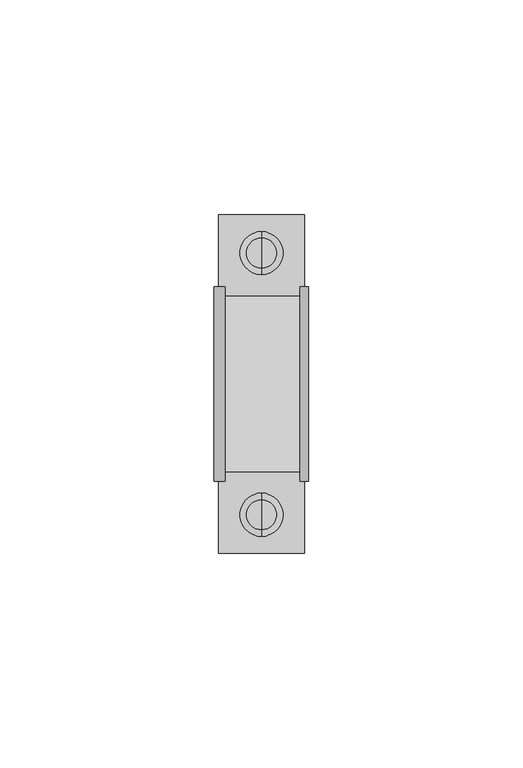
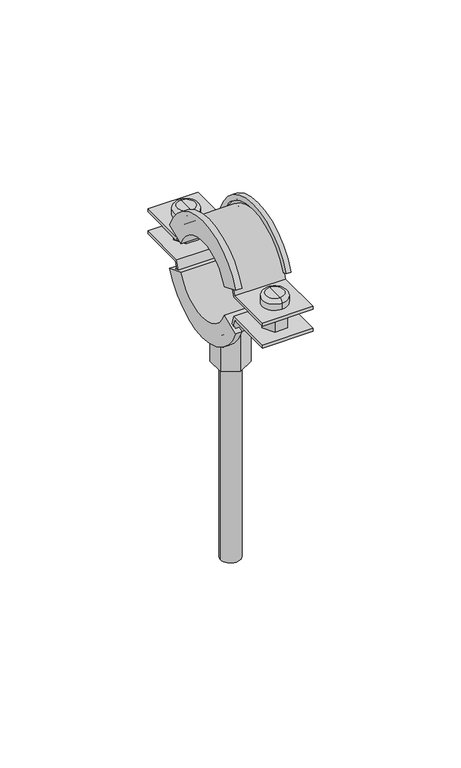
"""IFC4 building model written with IfcOpenShell, lengths in millimetres: pipe fitting geometry, NIRON abrazadera isofonica lisa : Estándard."""

import ifcopenshell
import ifcopenshell.guid

model = None  # the IFC model being written
_history = None  # IfcOwnerHistory: only IFC2X3 demands one
_inside = {}  # id of a spatial element -> (the spatial element, [elements in it])
_under = {}  # id of a project, library or spatial element -> (it, [spatial elements below it])
_declared = {}  # id of a project -> (the project, [libraries it declares])
_typed = {}  # id of a type object -> (the type object, [elements of that type])
_made_of = {}  # id of a material, layer set ... -> (it, [elements and type objects made of it])


def new_model(schema):
    """Start an empty IFC model of exactly this schema.

    Asked for "IFC4X3", IfcOpenShell would pick the latest addendum, in which some entities
    have other attributes; the version numbers below select the first issue.
    IFC2X3 requires an IfcOwnerHistory on every rooted entity: one is made here for all.
    """
    global model, _history
    if schema == "IFC4X3":
        model = ifcopenshell.file(schema_version=(4, 3, 0, 0))
    else:
        model = ifcopenshell.file(schema=schema)
    _inside.clear()
    _under.clear()
    _declared.clear()
    _typed.clear()
    _made_of.clear()
    _history = None
    if model.schema == "IFC2X3":
        org = make("IfcOrganization", Name="unknown")
        user = make(
            "IfcPersonAndOrganization",
            ThePerson=make("IfcPerson", FamilyName="unknown"),
            TheOrganization=org,
        )
        app = make(
            "IfcApplication",
            ApplicationDeveloper=org,
            Version="unknown",
            ApplicationFullName="unknown",
            ApplicationIdentifier="unknown",
        )
        _history = make(
            "IfcOwnerHistory",
            OwningUser=user,
            OwningApplication=app,
            ChangeAction="ADDED",
            CreationDate=0,
        )
    return model


def make(cls, **values):
    """One entity of the class cls with the attributes given. An attribute that is None is left unset."""
    return model.create_entity(
        cls, **{name: value for name, value in values.items() if value is not None}
    )


def rooted(cls, **values):
    """An entity with a GlobalId (a new one), such as an element, a storey or a relation."""
    return make(cls, GlobalId=ifcopenshell.guid.new(), OwnerHistory=_history, **values)


def si_unit(unit_type, name, prefix=None):
    """IfcSIUnit, for example si_unit("LENGTHUNIT", "METRE", prefix="MILLI")."""
    return make("IfcSIUnit", UnitType=unit_type, Prefix=prefix, Name=name)


def assignment(units):
    """IfcUnitAssignment: the units of a project."""
    return None if units is None else make("IfcUnitAssignment", Units=units)


def point(xyz):
    """IfcCartesianPoint."""
    return None if xyz is None else make("IfcCartesianPoint", Coordinates=xyz)


def direction(xyz):
    """IfcDirection."""
    return None if xyz is None else make("IfcDirection", DirectionRatios=xyz)


def frame(location, z_axis=None, x_axis=None):
    """IfcAxis2Placement3D, a coordinate frame: its origin and axes. An axis left out is left unset."""
    return make(
        "IfcAxis2Placement3D",
        Location=point(location),
        Axis=direction(z_axis),
        RefDirection=direction(x_axis),
    )


def frame_2d(location, x_axis=None):
    """IfcAxis2Placement2D, a coordinate frame in the plane: its origin and x axis."""
    return make(
        "IfcAxis2Placement2D", Location=point(location), RefDirection=direction(x_axis)
    )


def origin():
    """The frame at (0, 0, 0) with its axes left unset."""
    return frame((0.0, 0.0, 0.0))


def origin_2d():
    """The frame at (0, 0) in the plane with its x axis left unset."""
    return frame_2d((0.0, 0.0))


def place(relative_to, where):
    """IfcLocalPlacement: puts the frame where relative to a parent placement (None: the world)."""
    return make(
        "IfcLocalPlacement", PlacementRelTo=relative_to, RelativePlacement=where
    )


def context(
    kind, dimensions, precision=None, world=None, true_north=None, identifier=None
):
    """IfcGeometricRepresentationContext, for example the 3D "Model" context."""
    return make(
        "IfcGeometricRepresentationContext",
        ContextIdentifier=identifier,
        ContextType=kind,
        CoordinateSpaceDimension=dimensions,
        Precision=precision,
        WorldCoordinateSystem=world,
        TrueNorth=true_north,
    )


def project(units=None, contexts=None):
    """IfcProject with its units and contexts."""
    return rooted(
        "IfcProject",
        Name="project",
        RepresentationContexts=contexts,
        UnitsInContext=assignment(units),
    )


def spatial(cls, under=None, at=None, **own):
    """A site, building, storey or space (cls), placed at a placement, below another one or the project."""
    s = rooted(cls, ObjectPlacement=at, **own)
    if under is not None:
        _under.setdefault(under.id(), (under, []))[1].append(s)
    return s


def polyline(points):
    """IfcPolyline through the points."""
    return make("IfcPolyline", Points=[point(p) for p in points])


def circle_curve(where, radius):
    """IfcCircle in the frame where."""
    return make("IfcCircle", Position=where, Radius=radius)


def ellipse_curve(where, semi_axis1, semi_axis2):
    """IfcEllipse in the frame where."""
    return make(
        "IfcEllipse", Position=where, SemiAxis1=semi_axis1, SemiAxis2=semi_axis2
    )


def trimmed(basis, trim1, trim2, sense, master):
    """IfcTrimmedCurve: the piece of a basis curve between two trims."""
    return make(
        "IfcTrimmedCurve",
        BasisCurve=basis,
        Trim1=trim1,
        Trim2=trim2,
        SenseAgreement=sense,
        MasterRepresentation=master,
    )


def segment(curve, same_sense, transition):
    """IfcCompositeCurveSegment."""
    return make(
        "IfcCompositeCurveSegment",
        Transition=transition,
        SameSense=same_sense,
        ParentCurve=curve,
    )


def composite_curve(segments, self_intersect=None):
    """IfcCompositeCurve: segments joined end to end."""
    return make("IfcCompositeCurve", Segments=segments, SelfIntersect=self_intersect)


def outline(outer, holes=None, kind="AREA"):
    """IfcArbitraryClosedProfileDef: a profile drawn as a closed curve; with holes, ...WithVoids."""
    if holes is None:
        return make("IfcArbitraryClosedProfileDef", ProfileType=kind, OuterCurve=outer)
    return make(
        "IfcArbitraryProfileDefWithVoids",
        ProfileType=kind,
        OuterCurve=outer,
        InnerCurves=holes,
    )


def extrude(swept, where, along, depth):
    """IfcExtrudedAreaSolid: the profile swept, set in the frame where, extruded along a direction by depth."""
    return make(
        "IfcExtrudedAreaSolid",
        SweptArea=swept,
        Position=where,
        ExtrudedDirection=direction(along),
        Depth=depth,
    )


def shape(context_of_items, identifier, shape_type, items):
    """IfcShapeRepresentation: the items that make up one representation, for example the "Body"."""
    return make(
        "IfcShapeRepresentation",
        ContextOfItems=context_of_items,
        RepresentationIdentifier=identifier,
        RepresentationType=shape_type,
        Items=items,
    )


def source(mapping_origin, context_of_items, identifier, shape_type, items):
    """IfcRepresentationMap: a shape defined once, which mapped items show again and again."""
    return make(
        "IfcRepresentationMap",
        MappingOrigin=mapping_origin,
        MappedRepresentation=shape(context_of_items, identifier, shape_type, items),
    )


def transform(
    local_origin,
    x_axis=None,
    y_axis=None,
    z_axis=None,
    scale=None,
    scale2=None,
    scale3=None,
    uniform=True,
):
    """IfcCartesianTransformationOperator3D, or its non-uniform kind. x_axis, y_axis, z_axis: its Axis1, 2, 3."""
    if uniform:
        return make(
            "IfcCartesianTransformationOperator3D",
            Axis1=direction(x_axis),
            Axis2=direction(y_axis),
            LocalOrigin=point(local_origin),
            Scale=scale,
            Axis3=direction(z_axis),
        )
    return make(
        "IfcCartesianTransformationOperator3DnonUniform",
        Axis1=direction(x_axis),
        Axis2=direction(y_axis),
        LocalOrigin=point(local_origin),
        Scale=scale,
        Axis3=direction(z_axis),
        Scale2=scale2,
        Scale3=scale3,
    )


def mapped(mapping_source, mapping_target):
    """IfcMappedItem: shows the shape of a source again, moved by a transform."""
    return make(
        "IfcMappedItem", MappingSource=mapping_source, MappingTarget=mapping_target
    )


def made_of(thing, what):
    """Note that an element or type object is made of a material, layer set ...; save() writes the relation."""
    if what is not None:
        _made_of.setdefault(what.id(), (what, []))[1].append(thing)
    return thing


def element(
    cls,
    number,
    at=None,
    inside=None,
    cuts=None,
    type_object=None,
    material=None,
    context=None,
    identifier="Body",
    shape_type=None,
    held_by="IfcProductDefinitionShape",
    body=None,
    shapes=None,
    **own,
):
    """One element of the class cls, such as IfcWall. Its Tag is "e" and its number.

    at: its placement. inside: the storey or other place that contains it. cuts: it is an
    opening in that element (IfcRelVoidsElement). A single representation is given by context,
    identifier, shape_type and body (its items); several are given by shapes. held_by: the class
    of the entity that holds the representations. save() writes the other relations.
    """
    e = rooted(cls, Tag="e%d" % number, ObjectPlacement=at, **own)
    if body is not None:
        shapes = [shape(context, identifier, shape_type, body)]
    if shapes is not None:
        e.Representation = make(held_by, Representations=shapes)
    if inside is not None:
        _inside.setdefault(inside.id(), (inside, []))[1].append(e)
    if cuts is not None:
        rooted(
            "IfcRelVoidsElement", RelatingBuildingElement=cuts, RelatedOpeningElement=e
        )
    if type_object is not None:
        _typed.setdefault(type_object.id(), (type_object, []))[1].append(e)
    return made_of(e, material)


def aggregate(whole, parts):
    """IfcRelAggregates: a whole, such as a stair, and the parts it consists of."""
    return rooted("IfcRelAggregates", RelatingObject=whole, RelatedObjects=parts)


def save(model, path):
    """Write the relations noted so far, then the file.

    IfcRelAggregates (storeys below a building ...), IfcRelContainedInSpatialStructure (elements
    in a storey), IfcRelDefinesByType, IfcRelAssociatesMaterial and IfcRelDeclares: one each for
    every whole, place, type object, material and project.
    """
    for whole, parts in _under.values():
        aggregate(whole, parts)
    for where, things in _inside.values():
        rooted(
            "IfcRelContainedInSpatialStructure",
            RelatedElements=things,
            RelatingStructure=where,
        )
    for kind, things in _typed.values():
        rooted("IfcRelDefinesByType", RelatedObjects=things, RelatingType=kind)
    for what, things in _made_of.values():
        rooted("IfcRelAssociatesMaterial", RelatedObjects=things, RelatingMaterial=what)
    for by, libraries in _declared.values():
        rooted("IfcRelDeclares", RelatingContext=by, RelatedDefinitions=libraries)
    model.write(path)


def plane_surface(at):
    """IfcPlane: the flat surface through the origin of the frame at, square to its z axis."""
    return make("IfcPlane", Position=at)


def cylinder_surface(at, radius):
    """IfcCylindricalSurface: all points at the distance radius from the z axis of the frame at."""
    return make("IfcCylindricalSurface", Position=at, Radius=radius)


def revolved_surface(curve, axis_point, axis_direction):
    """IfcSurfaceOfRevolution: the curve turned about the line through axis_point along axis_direction."""
    return make(
        "IfcSurfaceOfRevolution",
        SweptCurve=make("IfcArbitraryOpenProfileDef", ProfileType="CURVE", Curve=curve),
        AxisPosition=make("IfcAxis1Placement", Location=point(axis_point), Axis=direction(axis_direction)),
    )


def advanced_brep(points, edges, surfaces, faces):
    """IfcAdvancedBrep: a solid bounded by faces that lie on surfaces and meet in shared edges.

    An edge is (start, end): straight between two places in points (the first is 0);
    or (start, end, curve); or (start, end, curve, False) where it runs against its curve.
    A face is (place in surfaces, loops), or (place, loops, False) where it looks against
    its surface's normal. A loop lists edges by number (the first is 1), with a minus sign
    where the edge is run from its end to its start. The first loop is the outer one.
    """
    corners = [point(p) for p in points]
    vertices = [make("IfcVertexPoint", VertexGeometry=c) for c in corners]
    made = []
    for start, end, *more in edges:
        made.append(
            make(
                "IfcEdgeCurve",
                EdgeStart=vertices[start],
                EdgeEnd=vertices[end],
                EdgeGeometry=more[0] if more else make("IfcPolyline", Points=[corners[start], corners[end]]),
                SameSense=more[1] if len(more) > 1 else True,
            )
        )
    hull = []
    for where, loops, *sense in faces:
        bounds = []
        for j, loop in enumerate(loops):
            ring = [make("IfcOrientedEdge", EdgeElement=made[abs(k) - 1], Orientation=k > 0) for k in loop]
            bounds.append(
                make(
                    "IfcFaceOuterBound" if j == 0 else "IfcFaceBound",
                    Bound=make("IfcEdgeLoop", EdgeList=ring),
                    Orientation=True,
                )
            )
        hull.append(make("IfcAdvancedFace", Bounds=bounds, FaceSurface=surfaces[where], SameSense=sense[0] if sense else True))
    return make("IfcAdvancedBrep", Outer=make("IfcClosedShell", CfsFaces=hull))


def pipe_fitting_655e5988(model_context):
    return source(origin(), model_context, "Body", "SolidModel", [
        advanced_brep(
        [(0.0, 26.5, -7.8), (0.0, 26.5, -4.8), (0.0, 34.5, -4.8), (0.0, 34.5, -7.8), (0.0, 30.5, -7.8), (0.0, 30.5, -4.8)],
        [
            (0, 1),
            (1, 2, circle_curve(frame((0.0, 30.5, -4.8), z_axis=(0.0, 0.0, -1.0), x_axis=(0.0, 1.0, 0.0)), 4.0)),
            (2, 3),
            (3, 0, circle_curve(frame((0.0, 30.5, -7.8), z_axis=(0.0, 0.0, 1.0), x_axis=(0.0, 1.0, 0.0)), 4.0)),
            (2, 1, circle_curve(frame((0.0, 30.5, -4.8), z_axis=(0.0, 0.0, -1.0), x_axis=(0.0, 1.0, 0.0)), 4.0)),
            (0, 3, circle_curve(frame((0.0, 30.5, -7.8), z_axis=(0.0, 0.0, 1.0), x_axis=(0.0, 1.0, 0.0)), 4.0)),
            (4, 0),
            (3, 4),
            (1, 5),
            (5, 2),
        ],
        [
            cylinder_surface(frame((0.0, 30.5, -110.5332781), z_axis=(0.0, 0.0, -1.0), x_axis=(0.0, 1.0, 0.0)), 4.0),
            plane_surface(frame((0.0, 30.5, -7.8), z_axis=(0.0, 0.0, -1.0), x_axis=(0.0, 1.0, 0.0))),
            plane_surface(frame((0.0, 30.5, -4.8), z_axis=(0.0, 0.0, 1.0), x_axis=(0.0, 1.0, 0.0))),
        ],
        [
            (0, [[1, 2, 3, 4]]),
            (0, [[-3, 5, -1, 6]]),
            (1, [[7, -4, 8]]),
            (1, [[-8, -6, -7]]),
            (2, [[9, 10, -2]]),
            (2, [[-10, -9, -5]]),
        ],
    ),
        advanced_brep(
        [(0.0, 30.5, 4.8), (0.0, 25.5, 4.8), (0.0, 35.5, 4.8), (0.0, 25.5, 7.3), (0.0, 35.5, 7.3), (0.0, 27.0, 8.8), (0.0, 30.5, 8.8), (0.0, 34.0, 8.8)],
        [
            (0, 1),
            (1, 2, circle_curve(frame((0.0, 30.5, 4.8), z_axis=(0.0, 0.0, -1.0), x_axis=(0.0, 1.0, 0.0)), 5.0)),
            (2, 0),
            (2, 1, circle_curve(frame((0.0, 30.5, 4.8), z_axis=(0.0, 0.0, -1.0), x_axis=(0.0, 1.0, 0.0)), 5.0)),
            (1, 3),
            (3, 4, circle_curve(frame((0.0, 30.5, 7.3), z_axis=(0.0, 0.0, -1.0), x_axis=(0.0, 1.0, 0.0)), 5.0)),
            (4, 2),
            (4, 3, circle_curve(frame((0.0, 30.5, 7.3), z_axis=(0.0, 0.0, -1.0), x_axis=(0.0, 1.0, 0.0)), 5.0)),
            (5, 6),
            (6, 7),
            (7, 5, circle_curve(frame((0.0, 30.5, 8.8), z_axis=(0.0, 0.0, 1.0), x_axis=(0.0, 1.0, 0.0)), 3.5)),
            (5, 7, circle_curve(frame((0.0, 30.5, 8.8), z_axis=(0.0, 0.0, 1.0), x_axis=(0.0, 1.0, 0.0)), 3.5)),
            (3, 5, circle_curve(frame((0.0, 27.0, 7.3), z_axis=(-1.0, 0.0, 0.0), x_axis=(0.0, 1.0, 0.0)), 1.5)),
            (7, 4, circle_curve(frame((0.0, 34.0, 7.3), z_axis=(-1.0, 0.0, 0.0), x_axis=(0.0, -1.0, 0.0)), 1.5)),
        ],
        [
            plane_surface(frame((0.0, 30.5, 4.8), z_axis=(0.0, 0.0, -1.0), x_axis=(0.0, 1.0, 0.0))),
            cylinder_surface(frame((0.0, 30.5, 9.8), z_axis=(0.0, 0.0, -1.0), x_axis=(0.0, 1.0, 0.0)), 5.0),
            plane_surface(frame((0.0, 30.5, 8.8), z_axis=(0.0, 0.0, 1.0), x_axis=(0.0, 1.0, 0.0))),
            revolved_surface(trimmed(ellipse_curve(frame((0.0, 34.0, 7.3), z_axis=(-1.0, 0.0, 0.0), x_axis=(0.0, -1.0, 0.0)), 1.5, 1.5), [point((0.0, 34.0, 8.8))], [point((0.0, 35.5, 7.3))], True, "CARTESIAN"), (0.0, 30.5, 9.8), (0.0, 0.0, -1.0)),
        ],
        [
            (0, [[1, 2, 3]]),
            (0, [[-3, 4, -1]]),
            (1, [[5, 6, 7, -2]]),
            (1, [[-7, 8, -5, -4]]),
            (2, [[9, 10, 11]]),
            (2, [[-10, -9, 12]]),
            (3, [[13, -11, 14, -6]]),
            (3, [[-14, -12, -13, -8]]),
        ],
    ),
        advanced_brep(
        [(0.0, -26.5, -7.4875), (0.0, -34.5, -7.4875), (0.0, -34.5, -4.4875), (0.0, -26.5, -4.4875), (0.0, -30.5, -7.4875), (0.0, -30.5, -4.4875)],
        [
            (0, 1, circle_curve(frame((0.0, -30.5, -7.4875), z_axis=(0.0, 0.0, 1.0), x_axis=(0.0, -1.0, 0.0)), 4.0)),
            (1, 2),
            (2, 3, circle_curve(frame((0.0, -30.5, -4.4875), z_axis=(0.0, 0.0, -1.0), x_axis=(0.0, -1.0, 0.0)), 4.0)),
            (3, 0),
            (1, 0, circle_curve(frame((0.0, -30.5, -7.4875), z_axis=(0.0, 0.0, 1.0), x_axis=(0.0, -1.0, 0.0)), 4.0)),
            (3, 2, circle_curve(frame((0.0, -30.5, -4.4875), z_axis=(0.0, 0.0, -1.0), x_axis=(0.0, -1.0, 0.0)), 4.0)),
            (4, 1),
            (0, 4),
            (2, 5),
            (5, 3),
        ],
        [
            cylinder_surface(frame((0.0, -30.5, -110.2207781), z_axis=(0.0, 0.0, -1.0), x_axis=(0.0, -1.0, 0.0)), 4.0),
            plane_surface(frame((0.0, -30.5, -7.4875), z_axis=(0.0, 0.0, -1.0), x_axis=(0.0, -1.0, 0.0))),
            plane_surface(frame((0.0, -30.5, -4.4875), z_axis=(0.0, 0.0, 1.0), x_axis=(0.0, -1.0, 0.0))),
        ],
        [
            (0, [[1, 2, 3, 4]]),
            (0, [[5, -4, 6, -2]]),
            (1, [[7, -1, 8]]),
            (1, [[-8, -5, -7]]),
            (2, [[-3, 9, 10]]),
            (2, [[-6, -10, -9]]),
        ],
    ),
        advanced_brep(
        [(0.0, -30.5, 5.1125), (0.0, -35.5, 5.1125), (0.0, -25.5, 5.1125), (0.0, -35.5, 7.6125), (0.0, -25.5, 7.6125), (0.0, -27.0, 9.1125), (0.0, -34.0, 9.1125), (0.0, -30.5, 9.1125)],
        [
            (0, 1),
            (1, 2, circle_curve(frame((0.0, -30.5, 5.1125), z_axis=(0.0, 0.0, -1.0), x_axis=(0.0, -1.0, 0.0)), 5.0)),
            (2, 0),
            (2, 1, circle_curve(frame((0.0, -30.5, 5.1125), z_axis=(0.0, 0.0, -1.0), x_axis=(0.0, -1.0, 0.0)), 5.0)),
            (1, 3),
            (3, 4, circle_curve(frame((0.0, -30.5, 7.6125), z_axis=(0.0, 0.0, -1.0), x_axis=(0.0, -1.0, 0.0)), 5.0)),
            (4, 2),
            (4, 3, circle_curve(frame((0.0, -30.5, 7.6125), z_axis=(0.0, 0.0, -1.0), x_axis=(0.0, -1.0, 0.0)), 5.0)),
            (5, 6, circle_curve(frame((0.0, -30.5, 9.1125), z_axis=(0.0, 0.0, 1.0), x_axis=(0.0, -1.0, 0.0)), 3.5)),
            (6, 7),
            (7, 5),
            (6, 5, circle_curve(frame((0.0, -30.5, 9.1125), z_axis=(0.0, 0.0, 1.0), x_axis=(0.0, -1.0, 0.0)), 3.5)),
            (3, 6, circle_curve(frame((0.0, -34.0, 7.6125), z_axis=(-1.0, 0.0, 0.0), x_axis=(0.0, 1.0, 0.0)), 1.5)),
            (5, 4, circle_curve(frame((0.0, -27.0, 7.6125), z_axis=(-1.0, 0.0, 0.0), x_axis=(0.0, -1.0, 0.0)), 1.5)),
        ],
        [
            plane_surface(frame((0.0, -30.5, 5.1125), z_axis=(0.0, 0.0, -1.0), x_axis=(0.0, -1.0, 0.0))),
            cylinder_surface(frame((0.0, -30.5, 10.1125), z_axis=(0.0, 0.0, -1.0), x_axis=(0.0, -1.0, 0.0)), 5.0),
            plane_surface(frame((0.0, -30.5, 9.1125), z_axis=(0.0, 0.0, 1.0), x_axis=(0.0, -1.0, 0.0))),
            revolved_surface(trimmed(ellipse_curve(frame((0.0, -34.0, 7.6125), z_axis=(1.0, 0.0, 0.0), x_axis=(0.0, 1.0, 0.0)), 1.5, 1.5), [point((0.0, -34.0, 9.1125))], [point((0.0, -35.5, 7.6125))], True, "CARTESIAN"), (0.0, -30.5, 10.1125), (0.0, 0.0, -1.0)),
        ],
        [
            (0, [[1, 2, 3]]),
            (0, [[-3, 4, -1]]),
            (1, [[-2, 5, 6, 7]]),
            (1, [[-4, -7, 8, -5]]),
            (2, [[9, 10, 11]]),
            (2, [[12, -11, -10]]),
            (3, [[-6, 13, -9, 14]]),
            (3, [[-8, -14, -12, -13]]),
        ],
    ),
        extrude(outline(polyline([(2.5, 26.169873), (-2.5, 26.169873), (-5.0, 30.5), (-2.5, 34.830127), (2.5, 34.830127), (5.0, 30.5), (2.5, 26.169873)])), frame((0.0, 0.0, -4.0), z_axis=(0.0, 0.0, 1.0), x_axis=(1.0, 0.0, 0.0)), (0.0, 0.0, 1.0), 8.0),
        extrude(outline(polyline([(2.5, -26.169873), (5.0, -30.5), (2.5, -34.830127), (-2.5, -34.830127), (-5.0, -30.5), (-2.5, -26.169873), (2.5, -26.169873)])), frame((0.0, 0.0, -4.0), z_axis=(0.0, 0.0, 1.0), x_axis=(1.0, 0.0, 0.0)), (0.0, 0.0, 1.0), 8.0),
        advanced_brep(
        [(11.0, -14.8513093, 6.0), (11.0, -22.694657, 9.143946), (9.0, -22.694657, 9.143946), (9.0, -20.8382434, 8.3998168), (10.0, -20.8382434, 8.3998168), (10.0, -18.9818297, 7.6556875), (-10.0, -18.9818297, 7.6556875), (-10.0, -20.8382434, 8.3998168), (-8.5466338, -20.8382434, 8.3998168), (-8.5466338, -22.694657, 9.143946), (-11.0, -22.694657, 9.143946), (-11.0, -14.8513093, 6.0), (11.0, 14.8513093, 6.0), (-11.0, 14.8513093, 6.0), (-11.0, 22.694657, 9.143946), (-8.5466338, 22.694657, 9.143946), (-8.5466338, 20.8382434, 8.3998168), (-10.0, 20.8382434, 8.3998168), (-10.0, 18.9818297, 7.6556875), (10.0, 18.9818297, 7.6556875), (10.0, 20.8382434, 8.3998168), (9.0, 20.8382434, 8.3998168), (9.0, 22.694657, 9.143946), (11.0, 22.694657, 9.143946)],
        [
            (0, 1),
            (1, 2),
            (2, 3),
            (3, 4),
            (4, 5),
            (5, 6),
            (6, 7),
            (7, 8),
            (8, 9),
            (9, 10),
            (10, 11),
            (11, 0),
            (12, 13),
            (13, 14),
            (14, 15),
            (15, 16),
            (16, 17),
            (17, 18),
            (18, 19),
            (19, 20),
            (20, 21),
            (21, 22),
            (22, 23),
            (23, 12),
            (12, 0, circle_curve(frame((11.0, 0.0, 0.0469661), z_axis=(1.0, 0.0, 0.0), x_axis=(0.0, -0.9282068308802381, 0.37206461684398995)), 16.0)),
            (11, 13, circle_curve(frame((-11.0, 0.0, 0.0469661), z_axis=(-1.0, 0.0, 0.0), x_axis=(0.0, -0.9282068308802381, 0.37206461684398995)), 16.0)),
            (10, 14, circle_curve(frame((-11.0, 0.0, 0.0469661), z_axis=(-1.0, 0.0, 0.0), x_axis=(0.0, -0.9282068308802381, 0.37206461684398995)), 24.45)),
            (9, 15, circle_curve(frame((-8.5466338, 0.0, 0.0469661), z_axis=(-1.0, 0.0, 0.0), x_axis=(0.0, -0.9282068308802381, 0.37206461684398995)), 24.45)),
            (8, 16, circle_curve(frame((-8.5466338, 0.0, 0.0469661), z_axis=(-1.0, 0.0, 0.0), x_axis=(0.0, -0.9282068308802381, 0.37206461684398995)), 22.45)),
            (7, 17, circle_curve(frame((-10.0, 0.0, 0.0469661), z_axis=(-1.0, 0.0, 0.0), x_axis=(0.0, -0.9282068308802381, 0.37206461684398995)), 22.45)),
            (6, 18, circle_curve(frame((-10.0, 0.0, 0.0469661), z_axis=(-1.0, 0.0, 0.0), x_axis=(0.0, -0.9282068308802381, 0.37206461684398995)), 20.45)),
            (5, 19, circle_curve(frame((10.0, 0.0, 0.0469661), z_axis=(-1.0, 0.0, 0.0), x_axis=(0.0, -0.9282068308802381, 0.37206461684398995)), 20.45)),
            (4, 20, circle_curve(frame((10.0, 0.0, 0.0469661), z_axis=(-1.0, 0.0, 0.0), x_axis=(0.0, -0.9282068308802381, 0.37206461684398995)), 22.45)),
            (3, 21, circle_curve(frame((9.0, 0.0, 0.0469661), z_axis=(-1.0, 0.0, 0.0), x_axis=(0.0, -0.9282068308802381, 0.37206461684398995)), 22.45)),
            (2, 22, circle_curve(frame((9.0, 0.0, 0.0469661), z_axis=(-1.0, 0.0, 0.0), x_axis=(0.0, -0.9282068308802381, 0.37206461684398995)), 24.45)),
            (1, 23, circle_curve(frame((11.0, 0.0, 0.0469661), z_axis=(-1.0, 0.0, 0.0), x_axis=(0.0, -0.9282068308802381, 0.37206461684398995)), 24.45)),
        ],
        [
            plane_surface(frame((0.0, -14.8513093, 6.0), z_axis=(0.0, -0.37206461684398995, -0.9282068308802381), x_axis=(1.0, 0.0, 0.0))),
            plane_surface(frame((0.0, 14.8513093, 6.0), z_axis=(0.0, 0.37206461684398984, -0.9282068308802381), x_axis=(1.0, 0.0, 0.0))),
            revolved_surface(polyline([(-11.0, -14.85130929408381, 5.999999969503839), (11.0, -14.85130929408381, 5.999999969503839)]), (0.0, 0.0, 0.0469661), (-1.0, 0.0, 0.0)),
            plane_surface(frame((-11.0, 0.0, 0.0469661), z_axis=(-1.0, 0.0, 0.0), x_axis=(0.0, -0.9282068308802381, 0.37206461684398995))),
            cylinder_surface(frame((0.0, 0.0, 0.0469661), z_axis=(-1.0, 0.0, 0.0), x_axis=(0.0, -0.9282068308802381, 0.37206461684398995)), 24.45),
            plane_surface(frame((-8.5466338, 0.0, 0.0469661), z_axis=(1.0, 0.0, 0.0), x_axis=(0.0, -0.9282068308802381, 0.37206461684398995))),
            revolved_surface(polyline([(-10.0, -20.838243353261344, 8.399816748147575), (-8.5466338, -20.838243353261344, 8.399816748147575)]), (0.0, 0.0, 0.0469661), (-1.0, 0.0, 0.0)),
            plane_surface(frame((-10.0, 0.0, 0.0469661), z_axis=(1.0, 0.0, 0.0), x_axis=(0.0, -0.9282068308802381, 0.37206461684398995))),
            cylinder_surface(frame((0.0, 0.0, 0.0469661), z_axis=(-1.0, 0.0, 0.0), x_axis=(0.0, -0.9282068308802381, 0.37206461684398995)), 20.45),
            plane_surface(frame((10.0, 0.0, 0.0469661), z_axis=(-1.0, 0.0, 0.0), x_axis=(0.0, -0.9282068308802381, 0.37206461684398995))),
            revolved_surface(polyline([(9.0, -20.838243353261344, 8.399816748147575), (10.0, -20.838243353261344, 8.399816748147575)]), (0.0, 0.0, 0.0469661), (-1.0, 0.0, 0.0)),
            plane_surface(frame((9.0, 0.0, 0.0469661), z_axis=(-1.0, 0.0, 0.0), x_axis=(0.0, -0.9282068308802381, 0.37206461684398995))),
            plane_surface(frame((11.0, 0.0, 0.0469661), z_axis=(1.0, 0.0, 0.0), x_axis=(0.0, -0.9282068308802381, 0.37206461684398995))),
        ],
        [
            (0, [[1, 2, 3, 4, 5, 6, 7, 8, 9, 10, 11, 12]]),
            (1, [[13, 14, 15, 16, 17, 18, 19, 20, 21, 22, 23, 24]]),
            (2, [[25, -12, 26, -13]]),
            (3, [[-26, -11, 27, -14]]),
            (4, [[-27, -10, 28, -15]]),
            (5, [[-28, -9, 29, -16]]),
            (6, [[-29, -8, 30, -17]]),
            (7, [[-30, -7, 31, -18]]),
            (8, [[-31, -6, 32, -19]]),
            (9, [[-32, -5, 33, -20]]),
            (10, [[-33, -4, 34, -21]]),
            (11, [[-34, -3, 35, -22]]),
            (4, [[-35, -2, 36, -23]]),
            (12, [[-36, -1, -25, -24]]),
        ],
    ),
        extrude(outline(composite_curve([segment(trimmed(circle_curve(origin_2d(), 20.0), [point((-19.5959179, -4.0))], [point((19.5959179, -4.0))], True, "CARTESIAN"), True, "CONTINUOUS"), segment(polyline([(19.5959179, -4.0), (39.5, -4.0), (39.5, -5.25), (20.5912603, -5.25)]), True, "CONTINUOUS"), segment(trimmed(circle_curve(origin_2d(), 21.25), [point((20.5912603, -5.25))], [point((-20.5912603, -5.25))], False, "CARTESIAN"), True, "CONTINUOUS"), segment(polyline([(-20.5912603, -5.25), (-39.5, -5.25), (-39.5, -4.0), (-19.5959179, -4.0)]), True, "CONTINUOUS")], self_intersect=False)), frame((-10.0, 0.0, 0.0), z_axis=(1.0, 0.0, 0.0), x_axis=(0.0, 1.0, 0.0)), (0.0, 0.0, 1.0), 20.0),
        advanced_brep(
        [(11.0, -14.832397, -6.0), (-11.0, -14.832397, -6.0), (-11.0, -22.6657566, -9.16875), (-8.5466338, -22.6657566, -9.16875), (-8.5466338, -20.811707, -8.41875), (-10.0, -20.811707, -8.41875), (-10.0, -18.9576574, -7.66875), (10.0, -18.9576574, -7.66875), (10.0, -20.811707, -8.41875), (9.0, -20.811707, -8.41875), (9.0, -22.6657566, -9.16875), (11.0, -22.6657566, -9.16875), (11.0, 14.832397, -6.0), (11.0, 22.6657566, -9.16875), (9.0, 22.6657566, -9.16875), (9.0, 20.811707, -8.41875), (10.0, 20.811707, -8.41875), (10.0, 18.9576574, -7.66875), (-10.0, 18.9576574, -7.66875), (-10.0, 20.811707, -8.41875), (-8.5466338, 20.811707, -8.41875), (-8.5466338, 22.6657566, -9.16875), (-11.0, 22.6657566, -9.16875), (-11.0, 14.832397, -6.0)],
        [
            (0, 1),
            (1, 2),
            (2, 3),
            (3, 4),
            (4, 5),
            (5, 6),
            (6, 7),
            (7, 8),
            (8, 9),
            (9, 10),
            (10, 11),
            (11, 0),
            (12, 13),
            (13, 14),
            (14, 15),
            (15, 16),
            (16, 17),
            (17, 18),
            (18, 19),
            (19, 20),
            (20, 21),
            (21, 22),
            (22, 23),
            (23, 12),
            (23, 1, circle_curve(frame((-11.0, 0.0, 0.0), z_axis=(-1.0, 0.0, 0.0), x_axis=(0.0, -0.9270248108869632, -0.3749999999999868)), 16.0)),
            (0, 12, circle_curve(frame((11.0, 0.0, 0.0), z_axis=(1.0, 0.0, 0.0), x_axis=(0.0, -0.9270248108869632, -0.3749999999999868)), 16.0)),
            (22, 2, circle_curve(frame((-11.0, 0.0, 0.0), z_axis=(-1.0, 0.0, 0.0), x_axis=(0.0, -0.9270248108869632, -0.3749999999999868)), 24.45)),
            (21, 3, circle_curve(frame((-8.5466338, 0.0, 0.0), z_axis=(-1.0, 0.0, 0.0), x_axis=(0.0, -0.9270248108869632, -0.3749999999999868)), 24.45)),
            (20, 4, circle_curve(frame((-8.5466338, 0.0, 0.0), z_axis=(-1.0, 0.0, 0.0), x_axis=(0.0, -0.9270248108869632, -0.3749999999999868)), 22.45)),
            (19, 5, circle_curve(frame((-10.0, 0.0, 0.0), z_axis=(-1.0, 0.0, 0.0), x_axis=(0.0, -0.9270248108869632, -0.3749999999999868)), 22.45)),
            (18, 6, circle_curve(frame((-10.0, 0.0, 0.0), z_axis=(-1.0, 0.0, 0.0), x_axis=(0.0, -0.9270248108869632, -0.3749999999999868)), 20.45)),
            (17, 7, circle_curve(frame((10.0, 0.0, 0.0), z_axis=(-1.0, 0.0, 0.0), x_axis=(0.0, -0.9270248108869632, -0.3749999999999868)), 20.45)),
            (16, 8, circle_curve(frame((10.0, 0.0, 0.0), z_axis=(-1.0, 0.0, 0.0), x_axis=(0.0, -0.9270248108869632, -0.3749999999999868)), 22.45)),
            (15, 9, circle_curve(frame((9.0, 0.0, 0.0), z_axis=(-1.0, 0.0, 0.0), x_axis=(0.0, -0.9270248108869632, -0.3749999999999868)), 22.45)),
            (14, 10, circle_curve(frame((9.0, 0.0, 0.0), z_axis=(-1.0, 0.0, 0.0), x_axis=(0.0, -0.9270248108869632, -0.3749999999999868)), 24.45)),
            (13, 11, circle_curve(frame((11.0, 0.0, 0.0), z_axis=(-1.0, 0.0, 0.0), x_axis=(0.0, -0.9270248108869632, -0.3749999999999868)), 24.45)),
        ],
        [
            plane_surface(frame((0.0, -14.832397, -6.0), z_axis=(0.0, -0.3749999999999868, 0.9270248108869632), x_axis=(1.0, 0.0, 0.0))),
            plane_surface(frame((0.0, 14.832397, -6.0), z_axis=(0.0, 0.37499999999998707, 0.9270248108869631), x_axis=(1.0, 0.0, 0.0))),
            revolved_surface(polyline([(11.0, -14.832396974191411, -5.999999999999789), (-11.0, -14.832396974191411, -5.999999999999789)]), (0.0, 0.0, 0.0), (1.0, 0.0, 0.0)),
            plane_surface(frame((-11.0, 0.0, 0.0), z_axis=(-1.0, 0.0, 0.0), x_axis=(0.0, -0.9270248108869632, -0.3749999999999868))),
            cylinder_surface(frame((0.0, 0.0, 0.0), z_axis=(1.0, 0.0, 0.0), x_axis=(0.0, -0.9270248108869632, -0.3749999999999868)), 24.45),
            plane_surface(frame((-8.5466338, 0.0, 0.0), z_axis=(1.0, 0.0, 0.0), x_axis=(0.0, -0.9270248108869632, -0.3749999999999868))),
            revolved_surface(polyline([(-8.5466338, -20.811707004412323, -8.418749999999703), (-10.0, -20.811707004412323, -8.418749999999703)]), (0.0, 0.0, 0.0), (1.0, 0.0, 0.0)),
            plane_surface(frame((-10.0, 0.0, 0.0), z_axis=(1.0, 0.0, 0.0), x_axis=(0.0, -0.9270248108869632, -0.3749999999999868))),
            cylinder_surface(frame((0.0, 0.0, 0.0), z_axis=(1.0, 0.0, 0.0), x_axis=(0.0, -0.9270248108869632, -0.3749999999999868)), 20.45),
            plane_surface(frame((10.0, 0.0, 0.0), z_axis=(-1.0, 0.0, 0.0), x_axis=(0.0, -0.9270248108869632, -0.3749999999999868))),
            revolved_surface(polyline([(10.0, -20.811707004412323, -8.418749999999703), (9.0, -20.811707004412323, -8.418749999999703)]), (0.0, 0.0, 0.0), (1.0, 0.0, 0.0)),
            plane_surface(frame((9.0, 0.0, 0.0), z_axis=(-1.0, 0.0, 0.0), x_axis=(0.0, -0.9270248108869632, -0.3749999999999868))),
            plane_surface(frame((11.0, 0.0, 0.0), z_axis=(1.0, 0.0, 0.0), x_axis=(0.0, -0.9270248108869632, -0.3749999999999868))),
        ],
        [
            (0, [[1, 2, 3, 4, 5, 6, 7, 8, 9, 10, 11, 12]]),
            (1, [[13, 14, 15, 16, 17, 18, 19, 20, 21, 22, 23, 24]]),
            (2, [[25, -1, 26, -24]]),
            (3, [[27, -2, -25, -23]]),
            (4, [[28, -3, -27, -22]]),
            (5, [[29, -4, -28, -21]]),
            (6, [[30, -5, -29, -20]]),
            (7, [[31, -6, -30, -19]]),
            (8, [[32, -7, -31, -18]]),
            (9, [[33, -8, -32, -17]]),
            (10, [[34, -9, -33, -16]]),
            (11, [[35, -10, -34, -15]]),
            (4, [[36, -11, -35, -14]]),
            (12, [[-26, -12, -36, -13]]),
        ],
    ),
        extrude(outline(composite_curve([segment(trimmed(circle_curve(origin_2d(), 21.25), [point((-20.5912603, 5.25))], [point((20.5912603, 5.25))], False, "CARTESIAN"), True, "CONTINUOUS"), segment(polyline([(20.5912603, 5.25), (39.5, 5.25), (39.5, 4.0), (19.5959179, 4.0)]), True, "CONTINUOUS"), segment(trimmed(circle_curve(origin_2d(), 20.0), [point((19.5959179, 4.0))], [point((-19.5959179, 4.0))], True, "CARTESIAN"), True, "CONTINUOUS"), segment(polyline([(-19.5959179, 4.0), (-39.5, 4.0), (-39.5, 5.25), (-20.5912603, 5.25)]), True, "CONTINUOUS")], self_intersect=False)), frame((-10.0, 0.0, 0.0), z_axis=(1.0, 0.0, 0.0), x_axis=(0.0, 1.0, 0.0)), (0.0, 0.0, 1.0), 20.0),
        extrude(outline(composite_curve([segment(trimmed(circle_curve(origin_2d(), 4.0), [point((-4.0, 0.0))], [point((4.0, 0.0))], False, "CARTESIAN"), True, "CONTINUOUS"), segment(trimmed(circle_curve(origin_2d(), 4.0), [point((4.0, 0.0))], [point((-4.0, 0.0))], False, "CARTESIAN"), True, "CONTINUOUS")], self_intersect=False)), frame((0.0, 0.0, -120.0), z_axis=(0.0, 0.0, 1.0), x_axis=(1.0, 0.0, 0.0)), (0.0, 0.0, 1.0), 100.0),
        extrude(outline(polyline([(-6.0621778, 3.5), (0.0, 7.0), (6.0621778, 3.5), (6.0621778, -3.5), (0.0, -7.0), (-6.0621778, -3.5), (-6.0621778, 3.5)])), frame((0.0, 0.0, -38.2), z_axis=(0.0, 0.0, 1.0), x_axis=(1.0, 0.0, 0.0)), (0.0, 0.0, 1.0), 18.2),
    ])


if __name__ == "__main__":
    model = new_model("IFC4")
    model_context = context("Model", 3, world=origin())
    ifc_project = project(units=[si_unit("LENGTHUNIT", "METRE", prefix="MILLI")], contexts=[model_context])
    site = spatial("IfcSite", under=ifc_project)
    building = spatial("IfcBuilding", under=site)
    placement = place(None, origin())
    pipe_fitting_shape = pipe_fitting_655e5988(model_context)
    element("IfcPipeFitting", 1, ObjectType="NIRON abrazadera isofonica lisa : Estándard", at=placement, inside=building, context=model_context, shape_type="MappedRepresentation", body=[
        mapped(pipe_fitting_shape, transform((0.0, 0.0, 0.0), x_axis=(1.0, 0.0, 0.0), y_axis=(0.0, 1.0, 0.0), z_axis=(0.0, 0.0, 1.0))),
    ])
    save(model, "model.ifc")
